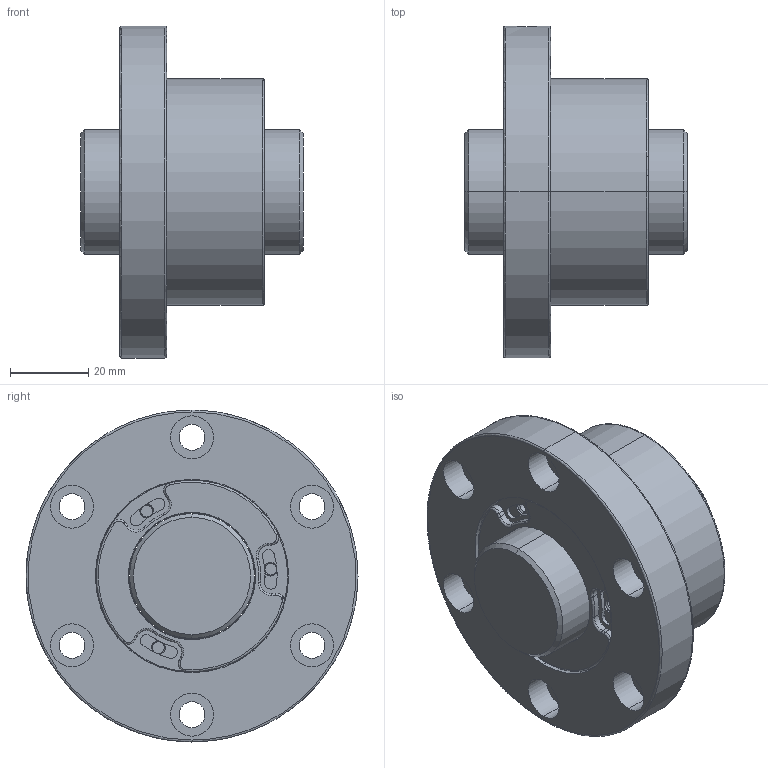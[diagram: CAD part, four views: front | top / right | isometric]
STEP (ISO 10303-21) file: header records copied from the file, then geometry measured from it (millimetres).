
FILE_DESCRIPTION (( 'STEP AP203' ), '1' );
FILE_NAME ('SFVSR03205C1N-C.STEP', '2020-06-17T05:14:08', ( '' ), ( '' ), 'SwSTEP 2.0', 'SolidWorks 2013', '' );
FILE_SCHEMA (( 'CONFIG_CONTROL_DESIGN' ));
Length unit declared in the file: millimetre
Products named in the file (1): SFVSR03205C1N-C
Bounding box: 57 x 85 x 85 mm (x, y, z)
Volume: 138482.9 mm3; surface area: 33627.5 mm2
Topology: 2 solids, 2 shells, 304 faces, 724 edges, 448 vertices
Faces by surface type: cylinder 160, plane 74, bspline 54, cone 16
Entity records: 10483 total; most frequent: CARTESIAN_POINT 3305, DIRECTION 1602, ORIENTED_EDGE 1448, EDGE_CURVE 724, AXIS2_PLACEMENT_3D 689, VERTEX_POINT 448, CIRCLE 438, EDGE_LOOP 346
